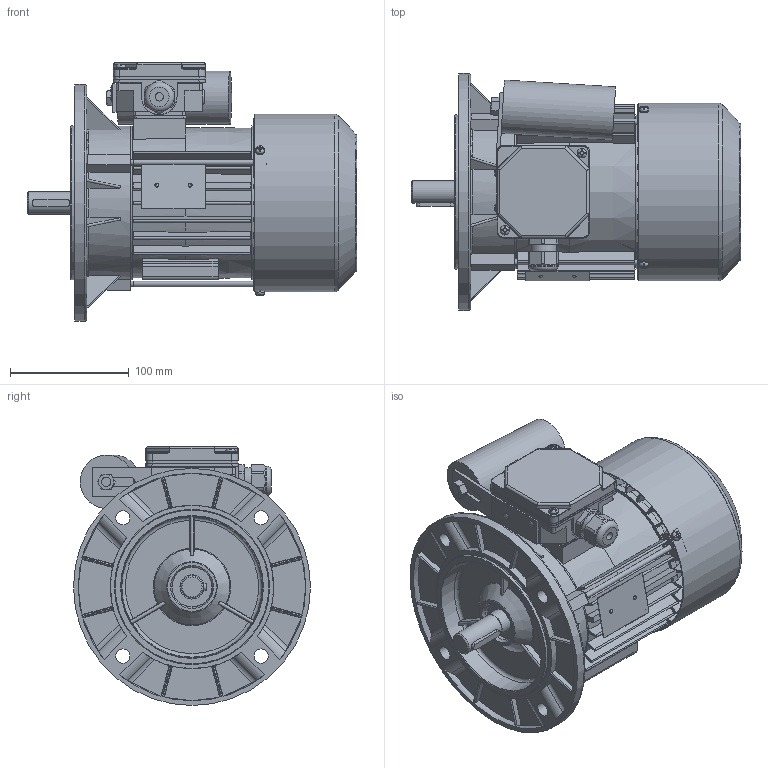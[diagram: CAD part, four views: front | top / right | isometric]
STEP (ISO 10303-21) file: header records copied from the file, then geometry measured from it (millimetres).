
FILE_DESCRIPTION(/* description */ ('Unknown'),/* implementation_level */ '2;1');
FILE_NAME(/* name */ '3SSIEK80-4A',/* time_stamp */ '2024-06-18T07:00:53+02:00',/* author */ ('Unknown'),/* organization */ ('Unknown'),/* preprocessor_version */ 'ST-DEVELOPER v16.7',/* originating_system */ 'Solid Edge',/* authorisation */ 'Unknown');
FILE_SCHEMA (('AUTOMOTIVE_DESIGN {1 0 10303 214 3 1 1}'));
Products named in the file (1): Czêœæ4
Bounding box: 277.78 x 200 x 218.5 mm (x, y, z)
Volume: 1091234.2 mm3; surface area: 545560.7 mm2
Topology: 3 solids, 3 shells, 2429 faces, 6858 edges, 4479 vertices
Faces by surface type: plane 1208, cylinder 786, torus 182, cone 135, bspline 96, sphere 22
Full cylindrical faces by diameter (mm): 2 x2, 2.4 x2, 3 x1, 3.7 x8, 4 x6, 4.3 x2, 4.5 x3, 4.6 x3, 4.8 x2, 5 x5, 5.5 x3, 6 x2, 6.5 x1, 7 x1, 8 x10, 12 x4, 18.998 x1, 19.298 x1, 19.498 x1, 20.298 x2, 20.398 x2, 20.4 x2, 22.3 x1, 25 x1, 25.497 x1, 25.997 x2, 26.097 x1, 26.997 x1, 28.799 x4, 34 x2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
Entity records: 98341 total; most frequent: CARTESIAN_POINT 21729, ORIENTED_EDGE 13036, DIRECTION 12187, EDGE_CURVE 6518, AXIS2_PLACEMENT_3D 4474, VERTEX_POINT 4354, LINE 3239, VECTOR 3239
